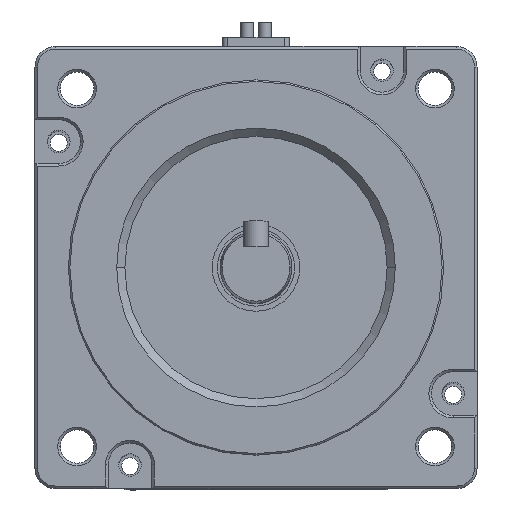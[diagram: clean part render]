
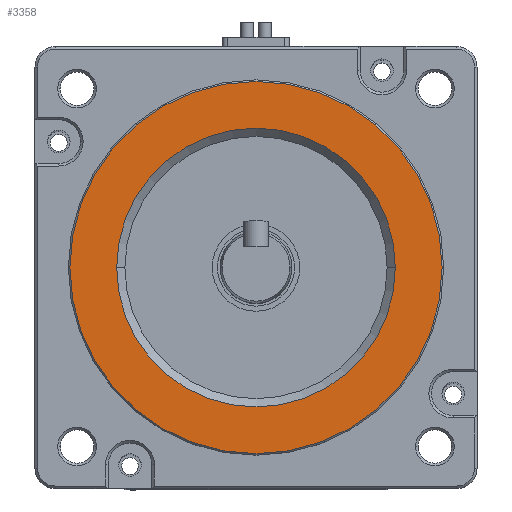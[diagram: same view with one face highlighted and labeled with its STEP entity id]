
A CAD part, top view. The second image highlights one B-rep face of the part: STEP entity #3358.
In plain terms, the highlighted planar face has unit normal (0, 0, 1).
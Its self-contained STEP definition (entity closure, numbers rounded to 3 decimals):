
#87 = DIRECTION ( 'NONE',  ( 0., 0., 1. ) ) ;
#99 = CARTESIAN_POINT ( 'NONE',  ( 0., 0., 11.6 ) ) ;
#360 = DIRECTION ( 'NONE',  ( 0., 0., -1. ) ) ;
#507 = CARTESIAN_POINT ( 'NONE',  ( 36.2, 0., 11.6 ) ) ;
#934 = DIRECTION ( 'NONE',  ( 1., 0., 0. ) ) ;
#1719 = PLANE ( 'NONE',  #10038 ) ;
#1809 = EDGE_CURVE ( 'NONE', #5539, #1975, #3721, .T. ) ;
#1975 = VERTEX_POINT ( 'NONE', #5084 ) ;
#2092 = ORIENTED_EDGE ( 'NONE', *, *, #10476, .T. ) ;
#2448 = ORIENTED_EDGE ( 'NONE', *, *, #4998, .T. ) ;
#2707 = CIRCLE ( 'NONE', #4840, 36.2 ) ;
#2717 = EDGE_LOOP ( 'NONE', ( #2092, #9633 ) ) ;
#3165 = ORIENTED_EDGE ( 'NONE', *, *, #5908, .T. ) ;
#3358 = ADVANCED_FACE ( 'NONE', ( #5071, #7550 ), #1719, .T. ) ;
#3721 = CIRCLE ( 'NONE', #6143, 27.1 ) ;
#3978 = CARTESIAN_POINT ( 'NONE',  ( 0., 0., 11.6 ) ) ;
#4300 = CARTESIAN_POINT ( 'NONE',  ( -27.1, 0., 11.6 ) ) ;
#4808 = DIRECTION ( 'NONE',  ( 1., 0., 0. ) ) ;
#4840 = AXIS2_PLACEMENT_3D ( 'NONE', #99, #5907, #934 ) ;
#4853 = CARTESIAN_POINT ( 'NONE',  ( -36.2, 0., 11.6 ) ) ;
#4979 = CIRCLE ( 'NONE', #9640, 36.2 ) ;
#4998 = EDGE_CURVE ( 'NONE', #7304, #10570, #4979, .T. ) ;
#5055 = CARTESIAN_POINT ( 'NONE',  ( 0., 0., 11.6 ) ) ;
#5071 = FACE_OUTER_BOUND ( 'NONE', #8209, .T. ) ;
#5084 = CARTESIAN_POINT ( 'NONE',  ( 27.1, 0., 11.6 ) ) ;
#5331 = CARTESIAN_POINT ( 'NONE',  ( 0., 0., 11.6 ) ) ;
#5539 = VERTEX_POINT ( 'NONE', #4300 ) ;
#5892 = DIRECTION ( 'NONE',  ( 1., 0., 0. ) ) ;
#5907 = DIRECTION ( 'NONE',  ( 0., 0., 1. ) ) ;
#5908 = EDGE_CURVE ( 'NONE', #10570, #7304, #2707, .T. ) ;
#6143 = AXIS2_PLACEMENT_3D ( 'NONE', #7291, #7150, #10187 ) ;
#6164 = DIRECTION ( 'NONE',  ( 1., 0., 0. ) ) ;
#6812 = AXIS2_PLACEMENT_3D ( 'NONE', #5331, #360, #6164 ) ;
#7150 = DIRECTION ( 'NONE',  ( 0., 0., -1. ) ) ;
#7291 = CARTESIAN_POINT ( 'NONE',  ( 0., 0., 11.6 ) ) ;
#7304 = VERTEX_POINT ( 'NONE', #4853 ) ;
#7550 = FACE_BOUND ( 'NONE', #2717, .T. ) ;
#8209 = EDGE_LOOP ( 'NONE', ( #2448, #3165 ) ) ;
#9300 = CIRCLE ( 'NONE', #6812, 27.1 ) ;
#9633 = ORIENTED_EDGE ( 'NONE', *, *, #1809, .T. ) ;
#9640 = AXIS2_PLACEMENT_3D ( 'NONE', #3978, #9784, #4808 ) ;
#9784 = DIRECTION ( 'NONE',  ( 0., 0., 1. ) ) ;
#10038 = AXIS2_PLACEMENT_3D ( 'NONE', #5055, #87, #5892 ) ;
#10187 = DIRECTION ( 'NONE',  ( 1., 0., 0. ) ) ;
#10476 = EDGE_CURVE ( 'NONE', #1975, #5539, #9300, .T. ) ;
#10570 = VERTEX_POINT ( 'NONE', #507 ) ;
